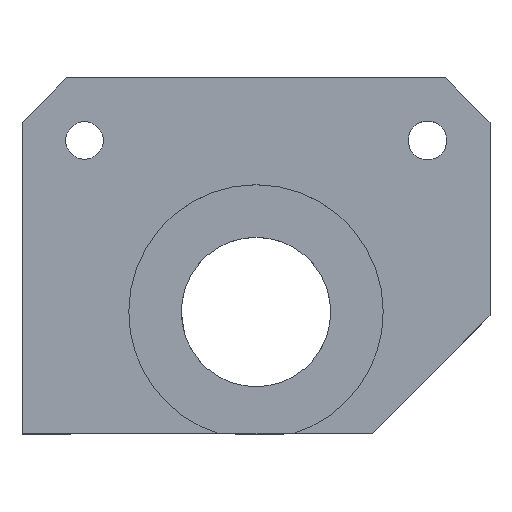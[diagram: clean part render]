
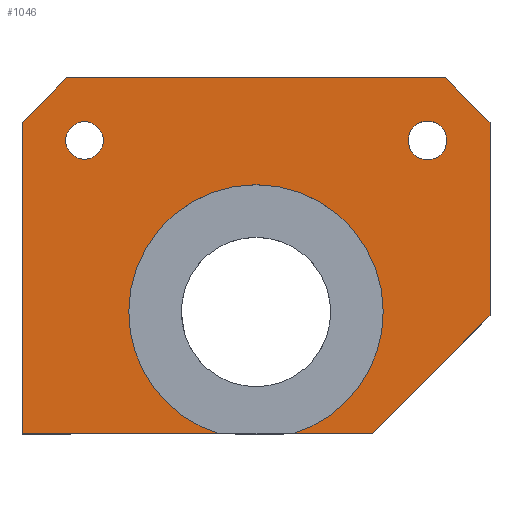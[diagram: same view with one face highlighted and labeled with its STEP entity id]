
A CAD part, top view. The second image highlights one B-rep face of the part: STEP entity #1046.
In plain terms, the highlighted planar face has unit normal (0, 0, 1).
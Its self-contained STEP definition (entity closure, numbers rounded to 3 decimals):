
#34 = DIRECTION ( 'NONE',  ( -1., 0., 0. ) ) ;
#42 = DIRECTION ( 'NONE',  ( 0., 0., -1. ) ) ;
#44 = VERTEX_POINT ( 'NONE', #579 ) ;
#53 = CARTESIAN_POINT ( 'NONE',  ( 21.15, 12.075, 7. ) ) ;
#76 = AXIS2_PLACEMENT_3D ( 'NONE', #838, #42, #971 ) ;
#94 = LINE ( 'NONE', #1542, #1423 ) ;
#135 = EDGE_CURVE ( 'NONE', #481, #489, #147, .T. ) ;
#147 = CIRCLE ( 'NONE', #1081, 1.75 ) ;
#152 = ORIENTED_EDGE ( 'NONE', *, *, #963, .T. ) ;
#162 = CARTESIAN_POINT ( 'NONE',  ( -3.354, -16.075, 7. ) ) ;
#164 = VERTEX_POINT ( 'NONE', #891 ) ;
#181 = CARTESIAN_POINT ( 'NONE',  ( 21.15, -5.425, 7. ) ) ;
#183 = DIRECTION ( 'NONE',  ( 0., 0., -1. ) ) ;
#208 = CARTESIAN_POINT ( 'NONE',  ( 3.354, -16.075, 7. ) ) ;
#213 = DIRECTION ( 'NONE',  ( 0., 0., -1. ) ) ;
#218 = FACE_OUTER_BOUND ( 'NONE', #416, .T. ) ;
#230 = AXIS2_PLACEMENT_3D ( 'NONE', #577, #1516, #715 ) ;
#241 = VECTOR ( 'NONE', #510, 1000. ) ;
#261 = EDGE_CURVE ( 'NONE', #687, #1321, #1721, .T. ) ;
#279 = ORIENTED_EDGE ( 'NONE', *, *, #1325, .F. ) ;
#281 = AXIS2_PLACEMENT_3D ( 'NONE', #1106, #314, #1239 ) ;
#283 = LINE ( 'NONE', #1710, #549 ) ;
#285 = LINE ( 'NONE', #1209, #947 ) ;
#312 = CARTESIAN_POINT ( 'NONE',  ( -21.15, 12.075, 7. ) ) ;
#314 = DIRECTION ( 'NONE',  ( 0., 0., 1. ) ) ;
#323 = DIRECTION ( 'NONE',  ( -0.707, 0.707, 0. ) ) ;
#336 = EDGE_CURVE ( 'NONE', #1117, #44, #591, .T. ) ;
#344 = CARTESIAN_POINT ( 'NONE',  ( -21.15, 12.075, 7. ) ) ;
#354 = DIRECTION ( 'NONE',  ( -0.707, -0.707, 0. ) ) ;
#356 = CARTESIAN_POINT ( 'NONE',  ( 15.5, 10.425, 7. ) ) ;
#375 = ORIENTED_EDGE ( 'NONE', *, *, #520, .T. ) ;
#379 = VERTEX_POINT ( 'NONE', #1677 ) ;
#395 = AXIS2_PLACEMENT_3D ( 'NONE', #1002, #213, #1130 ) ;
#416 = EDGE_LOOP ( 'NONE', ( #467, #1504, #788, #279, #554, #1326, #152, #1580, #375, #1603, #913 ) ) ;
#423 = CIRCLE ( 'NONE', #1184, 1.7 ) ;
#424 = EDGE_CURVE ( 'NONE', #738, #687, #1484, .T. ) ;
#436 = CARTESIAN_POINT ( 'NONE',  ( -21.15, -16.075, 7. ) ) ;
#464 = DIRECTION ( 'NONE',  ( 0.707, 0.707, 0. ) ) ;
#467 = ORIENTED_EDGE ( 'NONE', *, *, #1500, .T. ) ;
#481 = VERTEX_POINT ( 'NONE', #1559 ) ;
#485 = DIRECTION ( 'NONE',  ( -1., 0., 0. ) ) ;
#489 = VERTEX_POINT ( 'NONE', #886 ) ;
#499 = ORIENTED_EDGE ( 'NONE', *, *, #1290, .T. ) ;
#502 = ORIENTED_EDGE ( 'NONE', *, *, #135, .T. ) ;
#510 = DIRECTION ( 'NONE',  ( 1., 0., 0. ) ) ;
#516 = FACE_BOUND ( 'NONE', #1313, .T. ) ;
#520 = EDGE_CURVE ( 'NONE', #958, #738, #1636, .T. ) ;
#549 = VECTOR ( 'NONE', #1569, 1000. ) ;
#554 = ORIENTED_EDGE ( 'NONE', *, *, #1217, .T. ) ;
#565 = PLANE ( 'NONE',  #76 ) ;
#574 = DIRECTION ( 'NONE',  ( 0., 0., 1. ) ) ;
#577 = CARTESIAN_POINT ( 'NONE',  ( 0., -5.075, 7. ) ) ;
#579 = CARTESIAN_POINT ( 'NONE',  ( -11.5, -5.075, 7. ) ) ;
#591 = CIRCLE ( 'NONE', #697, 11.5 ) ;
#665 = CIRCLE ( 'NONE', #1210, 1.75 ) ;
#687 = VERTEX_POINT ( 'NONE', #312 ) ;
#694 = EDGE_CURVE ( 'NONE', #1363, #958, #1216, .T. ) ;
#697 = AXIS2_PLACEMENT_3D ( 'NONE', #1373, #574, #1514 ) ;
#699 = CIRCLE ( 'NONE', #395, 1.7 ) ;
#715 = DIRECTION ( 'NONE',  ( 1., 0., 0. ) ) ;
#723 = CARTESIAN_POINT ( 'NONE',  ( -17.15, 16.075, 7. ) ) ;
#738 = VERTEX_POINT ( 'NONE', #723 ) ;
#774 = CIRCLE ( 'NONE', #281, 11.5 ) ;
#788 = ORIENTED_EDGE ( 'NONE', *, *, #336, .F. ) ;
#826 = DIRECTION ( 'NONE',  ( 0., 1., 0. ) ) ;
#828 = DIRECTION ( 'NONE',  ( 0., 0., -1. ) ) ;
#838 = CARTESIAN_POINT ( 'NONE',  ( 0., 0., 7. ) ) ;
#844 = CARTESIAN_POINT ( 'NONE',  ( 11.5, -5.075, 7. ) ) ;
#873 = EDGE_CURVE ( 'NONE', #44, #1284, #774, .T. ) ;
#886 = CARTESIAN_POINT ( 'NONE',  ( 17.25, 10.425, 7. ) ) ;
#891 = CARTESIAN_POINT ( 'NONE',  ( -13.8, 10.425, 7. ) ) ;
#892 = ORIENTED_EDGE ( 'NONE', *, *, #1596, .T. ) ;
#913 = ORIENTED_EDGE ( 'NONE', *, *, #261, .T. ) ;
#947 = VECTOR ( 'NONE', #826, 1000. ) ;
#958 = VERTEX_POINT ( 'NONE', #1495 ) ;
#963 = EDGE_CURVE ( 'NONE', #1329, #1363, #285, .T. ) ;
#971 = DIRECTION ( 'NONE',  ( -1., 0., 0. ) ) ;
#975 = CARTESIAN_POINT ( 'NONE',  ( -15.5, 10.425, 7. ) ) ;
#986 = VECTOR ( 'NONE', #1232, 1000. ) ;
#1002 = CARTESIAN_POINT ( 'NONE',  ( -15.5, 10.425, 7. ) ) ;
#1012 = VECTOR ( 'NONE', #1192, 1000. ) ;
#1046 = ADVANCED_FACE ( 'NONE', ( #516, #1207, #218 ), #565, .F. ) ;
#1078 = VECTOR ( 'NONE', #354, 1000. ) ;
#1081 = AXIS2_PLACEMENT_3D ( 'NONE', #356, #1286, #485 ) ;
#1104 = DIRECTION ( 'NONE',  ( -1., 0., 0. ) ) ;
#1106 = CARTESIAN_POINT ( 'NONE',  ( 0., -5.075, 7. ) ) ;
#1111 = CARTESIAN_POINT ( 'NONE',  ( 17.15, 16.075, 7. ) ) ;
#1112 = CIRCLE ( 'NONE', #230, 11.5 ) ;
#1117 = VERTEX_POINT ( 'NONE', #844 ) ;
#1123 = VERTEX_POINT ( 'NONE', #208 ) ;
#1130 = DIRECTION ( 'NONE',  ( -1., 0., 0. ) ) ;
#1146 = EDGE_CURVE ( 'NONE', #1574, #1329, #94, .T. ) ;
#1155 = CARTESIAN_POINT ( 'NONE',  ( 10.5, -16.075, 7. ) ) ;
#1184 = AXIS2_PLACEMENT_3D ( 'NONE', #975, #183, #1104 ) ;
#1192 = DIRECTION ( 'NONE',  ( -1., 0., 0. ) ) ;
#1207 = FACE_BOUND ( 'NONE', #1386, .T. ) ;
#1209 = CARTESIAN_POINT ( 'NONE',  ( 21.15, 12.075, 7. ) ) ;
#1210 = AXIS2_PLACEMENT_3D ( 'NONE', #1638, #828, #34 ) ;
#1216 = LINE ( 'NONE', #1111, #1375 ) ;
#1217 = EDGE_CURVE ( 'NONE', #1123, #1574, #1367, .T. ) ;
#1224 = CARTESIAN_POINT ( 'NONE',  ( -21.15, -16.075, 7. ) ) ;
#1232 = DIRECTION ( 'NONE',  ( 0., -1., 0. ) ) ;
#1239 = DIRECTION ( 'NONE',  ( 1., 0., 0. ) ) ;
#1284 = VERTEX_POINT ( 'NONE', #162 ) ;
#1286 = DIRECTION ( 'NONE',  ( 0., 0., -1. ) ) ;
#1290 = EDGE_CURVE ( 'NONE', #489, #481, #665, .T. ) ;
#1313 = EDGE_LOOP ( 'NONE', ( #502, #499 ) ) ;
#1321 = VERTEX_POINT ( 'NONE', #436 ) ;
#1325 = EDGE_CURVE ( 'NONE', #1123, #1117, #1112, .T. ) ;
#1326 = ORIENTED_EDGE ( 'NONE', *, *, #1146, .T. ) ;
#1329 = VERTEX_POINT ( 'NONE', #181 ) ;
#1336 = CARTESIAN_POINT ( 'NONE',  ( -17.15, 16.075, 7. ) ) ;
#1363 = VERTEX_POINT ( 'NONE', #53 ) ;
#1367 = LINE ( 'NONE', #1448, #241 ) ;
#1373 = CARTESIAN_POINT ( 'NONE',  ( 0., -5.075, 7. ) ) ;
#1375 = VECTOR ( 'NONE', #323, 1000. ) ;
#1386 = EDGE_LOOP ( 'NONE', ( #1457, #892 ) ) ;
#1423 = VECTOR ( 'NONE', #464, 1000. ) ;
#1448 = CARTESIAN_POINT ( 'NONE',  ( 10.5, -16.075, 7. ) ) ;
#1457 = ORIENTED_EDGE ( 'NONE', *, *, #1707, .T. ) ;
#1484 = LINE ( 'NONE', #344, #1078 ) ;
#1495 = CARTESIAN_POINT ( 'NONE',  ( 17.15, 16.075, 7. ) ) ;
#1500 = EDGE_CURVE ( 'NONE', #1321, #1284, #283, .T. ) ;
#1504 = ORIENTED_EDGE ( 'NONE', *, *, #873, .F. ) ;
#1514 = DIRECTION ( 'NONE',  ( 1., 0., 0. ) ) ;
#1516 = DIRECTION ( 'NONE',  ( 0., 0., 1. ) ) ;
#1542 = CARTESIAN_POINT ( 'NONE',  ( 21.15, -5.425, 7. ) ) ;
#1559 = CARTESIAN_POINT ( 'NONE',  ( 13.75, 10.425, 7. ) ) ;
#1569 = DIRECTION ( 'NONE',  ( 1., 0., 0. ) ) ;
#1574 = VERTEX_POINT ( 'NONE', #1155 ) ;
#1580 = ORIENTED_EDGE ( 'NONE', *, *, #694, .T. ) ;
#1596 = EDGE_CURVE ( 'NONE', #164, #379, #423, .T. ) ;
#1603 = ORIENTED_EDGE ( 'NONE', *, *, #424, .T. ) ;
#1636 = LINE ( 'NONE', #1336, #1012 ) ;
#1638 = CARTESIAN_POINT ( 'NONE',  ( 15.5, 10.425, 7. ) ) ;
#1677 = CARTESIAN_POINT ( 'NONE',  ( -17.2, 10.425, 7. ) ) ;
#1707 = EDGE_CURVE ( 'NONE', #379, #164, #699, .T. ) ;
#1710 = CARTESIAN_POINT ( 'NONE',  ( 10.5, -16.075, 7. ) ) ;
#1721 = LINE ( 'NONE', #1224, #986 ) ;
